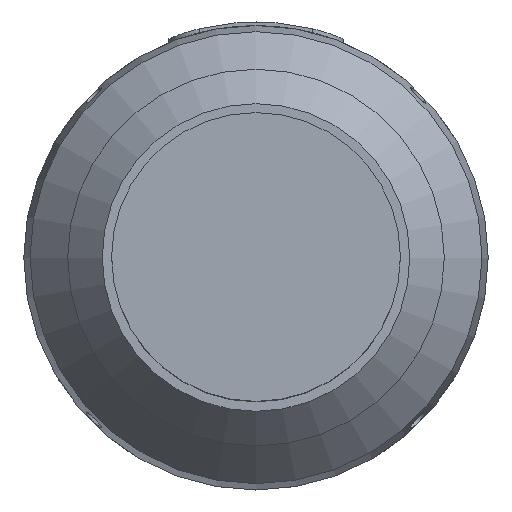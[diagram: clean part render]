
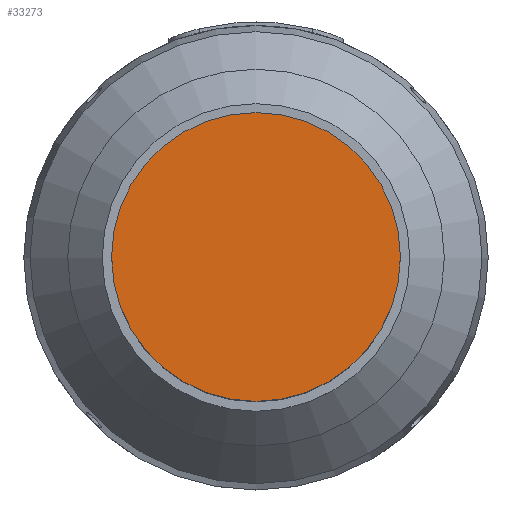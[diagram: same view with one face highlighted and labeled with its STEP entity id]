
A CAD part, top view. The second image highlights one B-rep face of the part: STEP entity #33273.
In plain terms, the highlighted planar face has unit normal (0, 0, 1).
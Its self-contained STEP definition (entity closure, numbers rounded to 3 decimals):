
#33244 = EDGE_CURVE('',#33245,#33245,#33247,.T.);
#33245 = VERTEX_POINT('',#33246);
#33246 = CARTESIAN_POINT('',(23.,0.,214.));
#33247 = CIRCLE('',#33248,23.);
#33248 = AXIS2_PLACEMENT_3D('',#33249,#33250,#33251);
#33249 = CARTESIAN_POINT('',(0.,0.,214.));
#33250 = DIRECTION('',(0.,0.,1.));
#33251 = DIRECTION('',(1.,0.,0.));
#33273 = ADVANCED_FACE('',(#33274),#33277,.T.);
#33274 = FACE_BOUND('',#33275,.T.);
#33275 = EDGE_LOOP('',(#33276));
#33276 = ORIENTED_EDGE('',*,*,#33244,.T.);
#33277 = PLANE('',#33278);
#33278 = AXIS2_PLACEMENT_3D('',#33279,#33280,#33281);
#33279 = CARTESIAN_POINT('',(0.,0.,214.));
#33280 = DIRECTION('',(0.,0.,1.));
#33281 = DIRECTION('',(1.,0.,0.));
